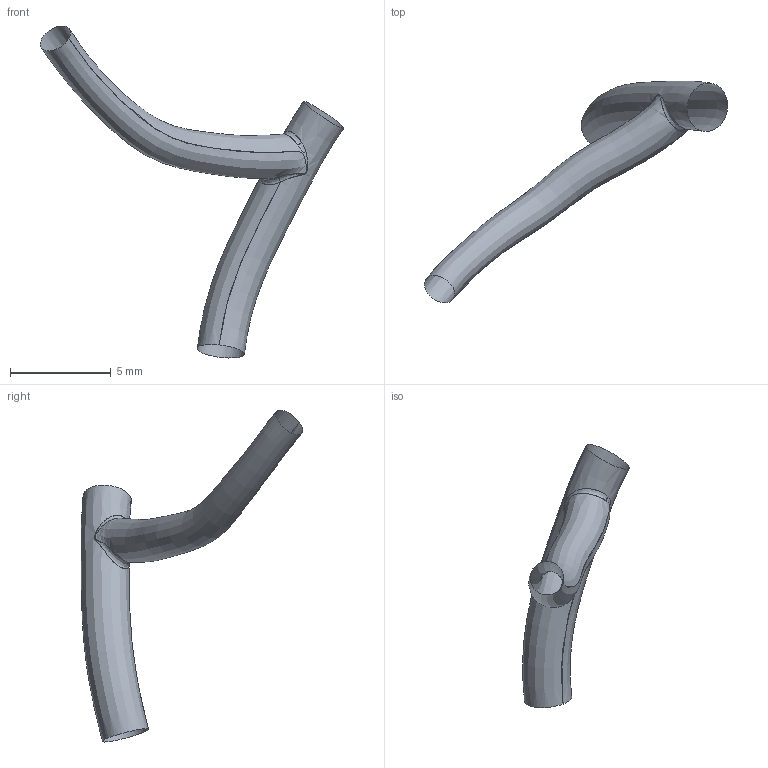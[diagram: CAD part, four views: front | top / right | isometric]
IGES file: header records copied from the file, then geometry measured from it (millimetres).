
Global section: file name: C:\Documents and Settings\Administrator\Desktop\FDA-Pig\Domestic LCA\Pig_000004\lcx.ed.igs; native system: Rhinoceros ( May 19 2006 ); preprocessor: Trout Lake IGES 012 May 19 2006; date: 111205.183128; units: centimetre
Bounding box: 15.07 x 11.02 x 16.5 mm (x, y, z)
Surface area: 188.6 mm2 (no closed solid volume)
Topology: 0 solids, 0 shells, 5 faces, 69 edges, 68 vertices
Faces by surface type: bspline 5
